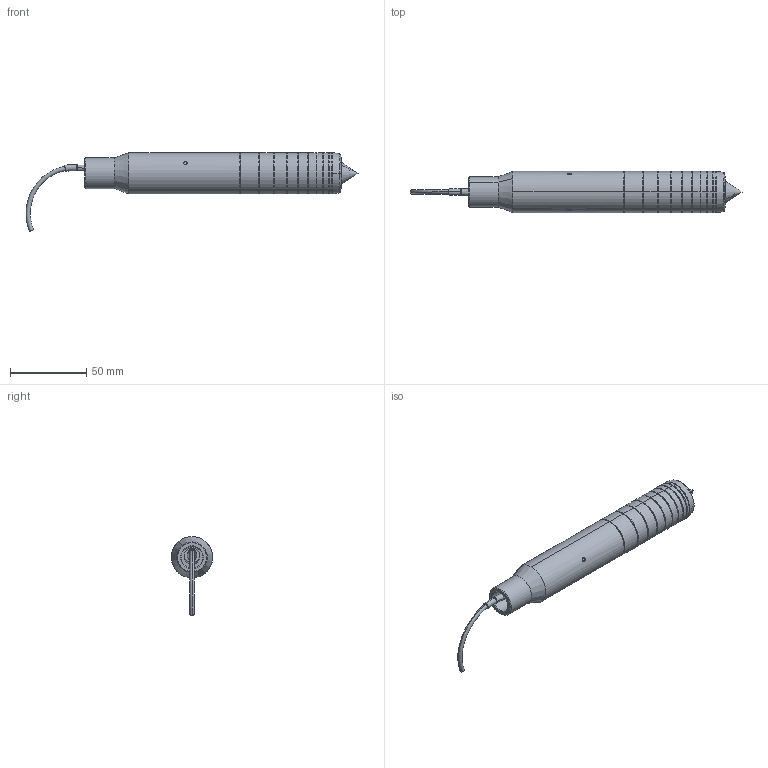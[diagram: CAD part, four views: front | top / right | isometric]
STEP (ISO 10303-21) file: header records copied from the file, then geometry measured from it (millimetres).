
FILE_DESCRIPTION (( 'STEP AP214' ), '1' );
FILE_NAME ('2602021.202 IFS2405-1(202) Sensor, vereinfacht.STEP', '2013-01-24T15:46:19', ( 'MICRO-EPSILON Optronic GmbH' ), ( 'MICRO-EPSILON Optronic GmbH' ), 'SwSTEP 2.0', 'SolidWorks 2012', '' );
FILE_SCHEMA (( 'AUTOMOTIVE_DESIGN' ));
Length unit declared in the file: millimetre
Products named in the file (1): 2602021.202 IFS2405-1(202) Sensor, vereinfacht
Bounding box: 217.31 x 27 x 51.51 mm (x, y, z)
Volume: 81250.1 mm3; surface area: 19910.5 mm2
Topology: 2 solids, 4 shells, 122 faces, 254 edges, 142 vertices
Faces by surface type: cylinder 54, bspline 38, cone 14, plane 12, torus 4
Entity records: 5401 total; most frequent: CARTESIAN_POINT 1672, DIRECTION 532, ORIENTED_EDGE 492, EDGE_CURVE 246, AXIS2_PLACEMENT_3D 229, CIRCLE 144, VERTEX_POINT 142, EDGE_LOOP 134
